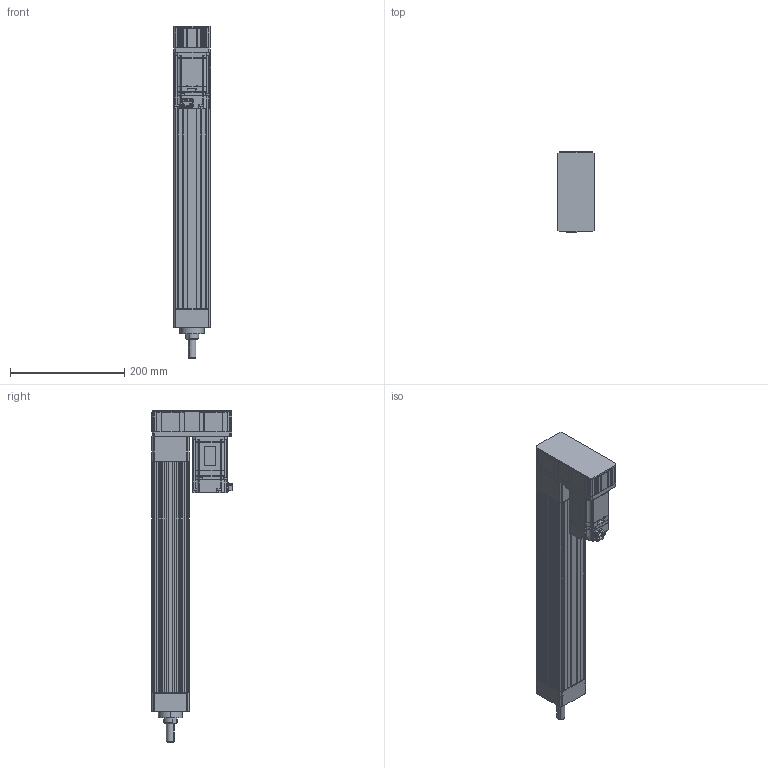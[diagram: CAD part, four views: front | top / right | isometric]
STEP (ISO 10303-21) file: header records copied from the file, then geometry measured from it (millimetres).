
FILE_DESCRIPTION (( 'STEP AP203' ), '1' );
FILE_NAME ('ANS065R-P300-05(10)(20)-W40-M.STEP', '2019-03-03T04:41:30', ( 'user' ), ( '' ), 'SwSTEP 2.0', 'SolidWorks 2013', '' );
FILE_SCHEMA (( 'CONFIG_CONTROL_DESIGN' ));
Length unit declared in the file: millimetre
Products named in the file (4): ANS065R P300 VER2; sgmjv_04a_a21; ANS065 ROD ST300-M; ANS065R-P300-05(10)(20)-W40-M
Assembly tree (3 placements, depth 2):
  ANS065R-P300-05(10)(20)-W40-M
    ANS065R P300 VER2
    sgmjv_04a_a21
    ANS065 ROD ST300-M
Bounding box: 65 x 140.3 x 580 mm (x, y, z)
Volume: 1683888.2 mm3; surface area: 412869 mm2
Topology: 3 solids, 7 shells, 1283 faces, 3465 edges, 2248 vertices
Faces by surface type: plane 817, cylinder 380, cone 86
Entity records: 40363 total; most frequent: CARTESIAN_POINT 7232, ORIENTED_EDGE 6898, DIRECTION 6761, EDGE_CURVE 3449, VECTOR 2567, LINE 2567, VERTEX_POINT 2248, AXIS2_PLACEMENT_3D 2097
